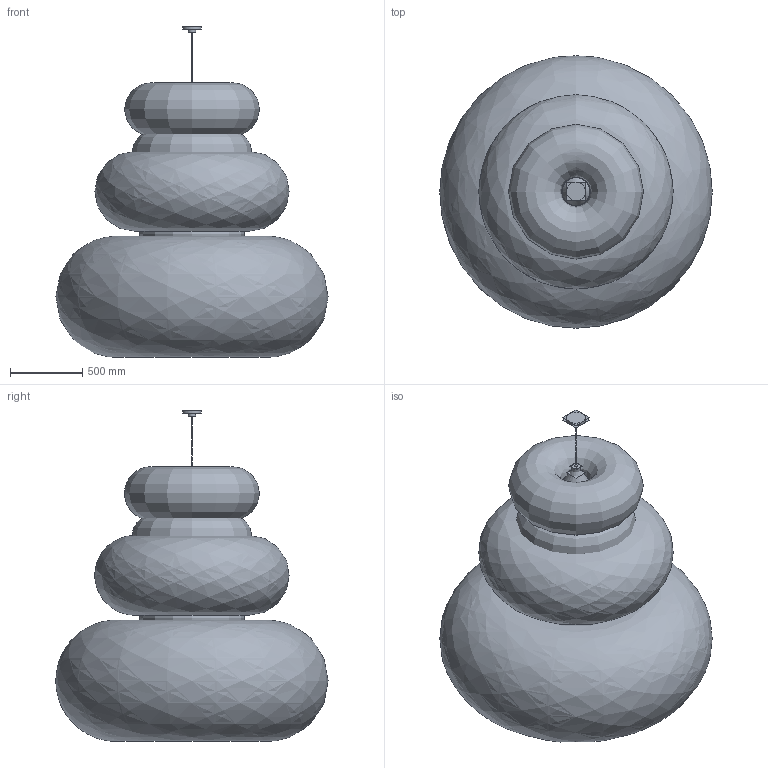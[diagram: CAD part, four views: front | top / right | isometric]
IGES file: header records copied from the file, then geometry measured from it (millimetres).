
Global section: file name: C:\Users\utente\Desktop\DANESE RG\3D Danese\FALKLAND\FALKLAND SOSPENSIONE 165.igs; native system: Rhinoceros ( Mar  9 2011 ); preprocessor: Trout Lake IGES 012 Mar  9 2011; date: 170725.140034; units: millimetre
Bounding box: 1879.02 x 1878.95 x 2283.31 mm (x, y, z)
Surface area: 74343425 mm2 (no closed solid volume)
Topology: 0 solids, 0 shells, 70 faces, 179 edges, 116 vertices
Faces by surface type: bspline 70
